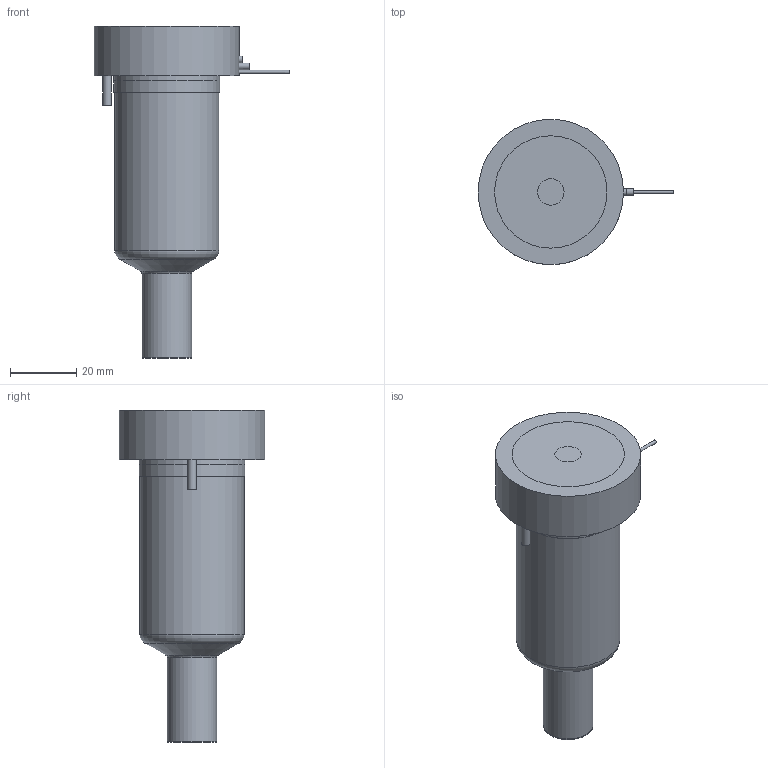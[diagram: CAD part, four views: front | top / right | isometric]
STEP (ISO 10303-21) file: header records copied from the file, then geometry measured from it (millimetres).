
FILE_DESCRIPTION(/* description */ (''),/* implementation_level */ '2;1');
FILE_NAME(/* name */ 'MXYCN19065P7U_200C_a',/* time_stamp */ '2016-02-29T16:07:15+13:00',/* author */ (''),/* organization */ (''),/* preprocessor_version */ 'ST-DEVELOPER v9',/* originating_system */ 'UGS - NX 4.0',/* authorisation */ '');
FILE_SCHEMA (('CONFIG_CONTROL_DESIGN'));
Length unit declared in the file: millimetre
Products named in the file (1): mattB1369yt4
Bounding box: 59.25 x 44 x 100.44 mm (x, y, z)
Volume: 121075.7 mm3; surface area: 23018.9 mm2
Topology: 2 solids, 2 shells, 68 faces, 144 edges, 94 vertices
Faces by surface type: plane 29, cylinder 25, torus 7, cone 5, bspline 1, sphere 1
Full cylindrical faces by diameter (mm): 1 x2, 1.8 x1, 2 x2, 2.5 x1, 7 x1, 8 x1, 14.61 x1, 14.995 x2, 18.3 x1, 25.4 x1, 31.5 x1, 32 x2, 44 x1
Entity records: 2005 total; most frequent: CARTESIAN_POINT 597, DIRECTION 290, ORIENTED_EDGE 212, AXIS2_PLACEMENT_3D 131, EDGE_LOOP 112, EDGE_CURVE 106, VERTEX_POINT 84, ADVANCED_FACE 68
